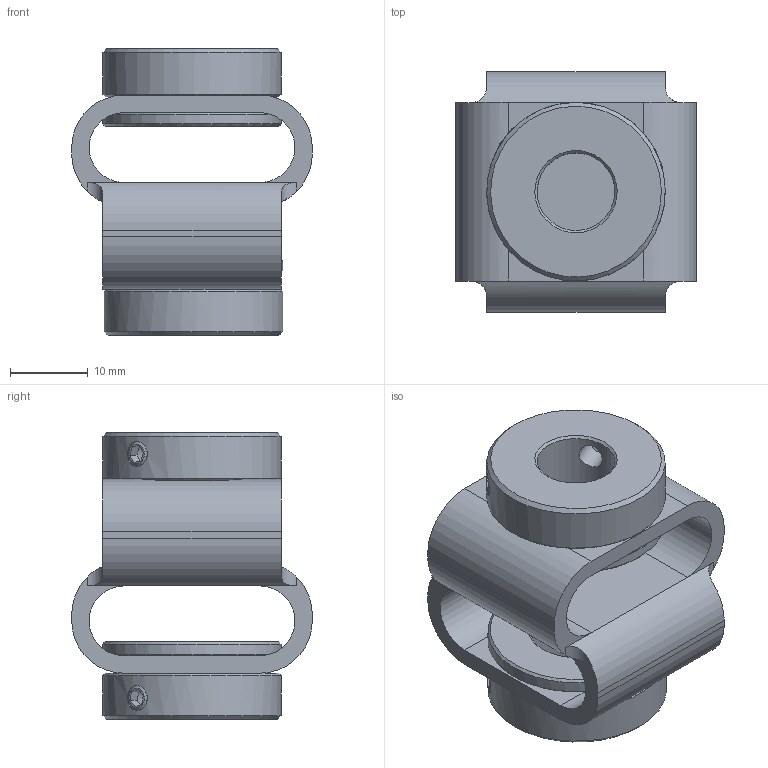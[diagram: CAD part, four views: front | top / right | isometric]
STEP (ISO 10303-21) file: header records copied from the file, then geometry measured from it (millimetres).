
FILE_DESCRIPTION(/* description */ (''),/* implementation_level */ '2;1');
FILE_NAME(/* name */ 'E:\ABP_bauteile\Doppelschlaufenkupplung\DKPS_3835\Doppelschlaufenkupplung_DKPS_3835_10_12.stp',/* time_stamp */ '2015-03-09T15:03:51+01:00',/* author */ ('Rob'),/* organization */ (''),/* preprocessor_version */ 'ST-DEVELOPER v15.6',/* originating_system */ 'Autodesk Inventor 2015',/* authorisation */ '');
FILE_SCHEMA (('CONFIG_CONTROL_DESIGN'));
Length unit declared in the file: millimetre
Products named in the file (1): Bauteil52
Bounding box: 31 x 31 x 36.95 mm (x, y, z)
Volume: 10898.6 mm3; surface area: 7955.9 mm2
Topology: 1 solids, 3 shells, 149 faces, 366 edges, 223 vertices
Faces by surface type: plane 84, cylinder 35, cone 30
Full cylindrical faces by diameter (mm): 3.242 x8, 10 x1, 12 x1, 14 x2, 15 x2, 23 x4
Entity records: 4237 total; most frequent: CARTESIAN_POINT 1081, DIRECTION 663, ORIENTED_EDGE 580, EDGE_CURVE 290, AXIS2_PLACEMENT_3D 260, EDGE_LOOP 205, VERTEX_POINT 191, FACE_OUTER_BOUND 149
